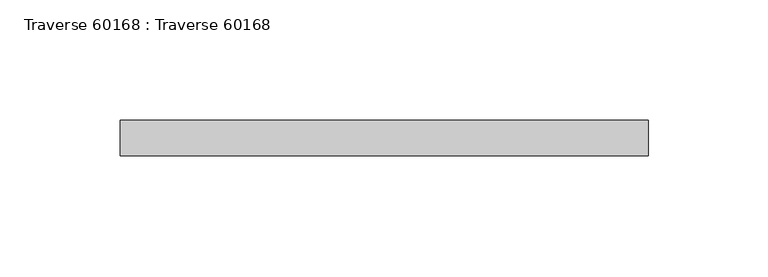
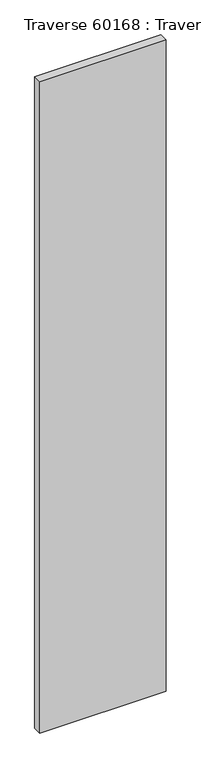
"""IFC4 building model written with IfcOpenShell, lengths in millimetres: beam geometry, Traverse 60168 : Traverse 60168."""

from ifc_helpers import new_model, si_unit, frame, origin, place, context, project, spatial, polyline, outline, extrude, source, transform, mapped, element, save


def traverse_60168_traverse_60168_653ced95(model_context):
    return source(origin(), model_context, "Body", "SweptSolid", [
        extrude(outline(polyline([(109.9999999, -29604.0), (109.9999999, -29619.0), (-110.0000001, -29619.0), (-110.0000001, -29604.0), (109.9999999, -29604.0)])), frame((0.0, 0.0, 6830.14), z_axis=(0.0, 0.0, 1.0), x_axis=(1.0, 0.0, 0.0)), (0.0, 0.0, 1.0), 1200.0),
    ])


if __name__ == "__main__":
    model = new_model("IFC4")
    model_context = context("Model", 3, world=origin())
    ifc_project = project(units=[si_unit("LENGTHUNIT", "METRE", prefix="MILLI")], contexts=[model_context])
    site = spatial("IfcSite", under=ifc_project)
    building = spatial("IfcBuilding", under=site)
    placement = place(None, origin())
    traverse_60168_traverse_60168_shape = traverse_60168_traverse_60168_653ced95(model_context)
    element("IfcBeam", 1, ObjectType="Traverse 60168 : Traverse 60168", at=placement, inside=building, context=model_context, shape_type="MappedRepresentation", body=[
        mapped(traverse_60168_traverse_60168_shape, transform((0.0, 0.0, 0.0), x_axis=(1.0, 0.0, 0.0), y_axis=(0.0, 1.0, 0.0), z_axis=(0.0, 0.0, 1.0))),
    ])
    save(model, "model.ifc")
